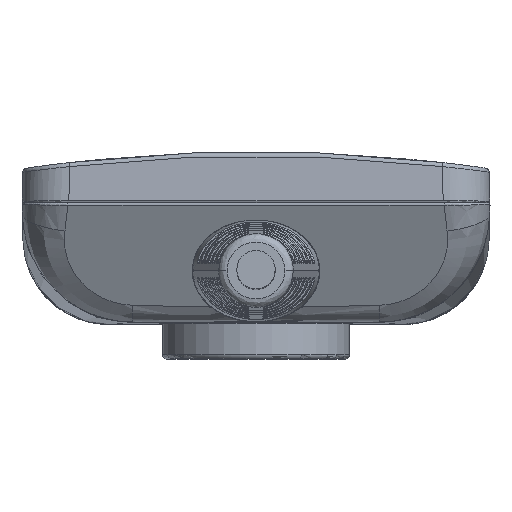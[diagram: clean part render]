
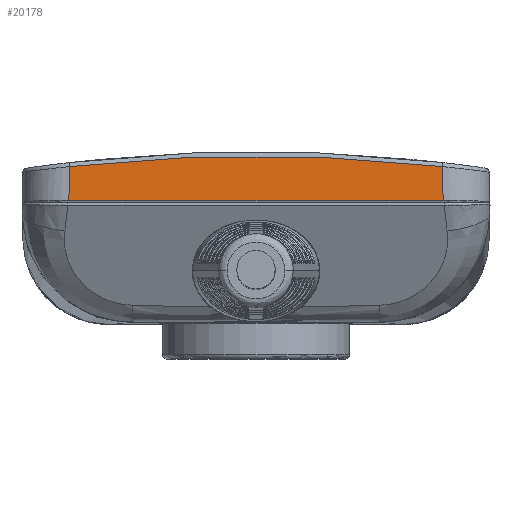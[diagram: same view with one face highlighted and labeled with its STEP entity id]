
A CAD part, top view. The second image highlights one B-rep face of the part: STEP entity #20178.
In plain terms, the highlighted planar face has unit normal (0, 0.035, 0.999).
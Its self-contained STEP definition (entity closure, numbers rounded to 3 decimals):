
#253 = CARTESIAN_POINT ( 'NONE',  ( 178.002, 0.207, 86.195 ) ) ;
#2023 = FACE_OUTER_BOUND ( 'NONE', #14141, .T. ) ;
#2544 = CARTESIAN_POINT ( 'NONE',  ( 200., 2.883, 86.101 ) ) ;
#4179 = EDGE_CURVE ( 'NONE', #19325, #44548, #35331, .T. ) ;
#5190 = VECTOR ( 'NONE', #23269, 1000. ) ;
#7248 = CARTESIAN_POINT ( 'NONE',  ( 178.002, 0.207, 86.195 ) ) ;
#9147 = DIRECTION ( 'NONE',  ( -0.116, 0.993, -0.035 ) ) ;
#10430 = PLANE ( 'NONE',  #26685 ) ;
#13079 = DIRECTION ( 'NONE',  ( 0., -0.035, -0.999 ) ) ;
#13374 = LINE ( 'NONE', #29399, #24024 ) ;
#13586 = VERTEX_POINT ( 'NONE', #35298 ) ;
#13709 = DIRECTION ( 'NONE',  ( -1., 0., 0. ) ) ;
#14141 = EDGE_LOOP ( 'NONE', ( #46500, #45850, #18091, #48861 ) ) ;
#18091 = ORIENTED_EDGE ( 'NONE', *, *, #4179, .F. ) ;
#19315 = VECTOR ( 'NONE', #13709, 1000. ) ;
#19325 = VERTEX_POINT ( 'NONE', #253 ) ;
#19435 = EDGE_CURVE ( 'NONE', #33725, #13586, #13374, .T. ) ;
#20178 = ADVANCED_FACE ( 'NONE', ( #2023 ), #10430, .T. ) ;
#23269 = DIRECTION ( 'NONE',  ( 0.026, 0.999, -0.035 ) ) ;
#24024 = VECTOR ( 'NONE', #45405, 1000. ) ;
#25518 = LINE ( 'NONE', #49676, #19315 ) ;
#25940 = CARTESIAN_POINT ( 'NONE',  ( 200., -183.816, 92.621 ) ) ;
#26155 = CIRCLE ( 'NONE', #46285, 189.449 ) ;
#26685 = AXIS2_PLACEMENT_3D ( 'NONE', #2544, #42715, #41935 ) ;
#29399 = CARTESIAN_POINT ( 'NONE',  ( 221.892, 4.249, 86.054 ) ) ;
#33725 = VERTEX_POINT ( 'NONE', #38467 ) ;
#35298 = CARTESIAN_POINT ( 'NONE',  ( 221.998, 0.207, 86.195 ) ) ;
#35331 = LINE ( 'NONE', #7248, #5190 ) ;
#38467 = CARTESIAN_POINT ( 'NONE',  ( 221.892, 4.249, 86.054 ) ) ;
#39170 = EDGE_CURVE ( 'NONE', #13586, #19325, #25518, .T. ) ;
#41530 = CARTESIAN_POINT ( 'NONE',  ( 178.108, 4.249, 86.054 ) ) ;
#41935 = DIRECTION ( 'NONE',  ( 1., 0., 0. ) ) ;
#42715 = DIRECTION ( 'NONE',  ( 0., 0.035, 0.999 ) ) ;
#44548 = VERTEX_POINT ( 'NONE', #41530 ) ;
#45405 = DIRECTION ( 'NONE',  ( 0.026, -0.999, 0.035 ) ) ;
#45850 = ORIENTED_EDGE ( 'NONE', *, *, #46516, .F. ) ;
#46285 = AXIS2_PLACEMENT_3D ( 'NONE', #25940, #13079, #9147 ) ;
#46500 = ORIENTED_EDGE ( 'NONE', *, *, #19435, .F. ) ;
#46516 = EDGE_CURVE ( 'NONE', #44548, #33725, #26155, .T. ) ;
#48861 = ORIENTED_EDGE ( 'NONE', *, *, #39170, .F. ) ;
#49676 = CARTESIAN_POINT ( 'NONE',  ( 221.998, 0.207, 86.195 ) ) ;
